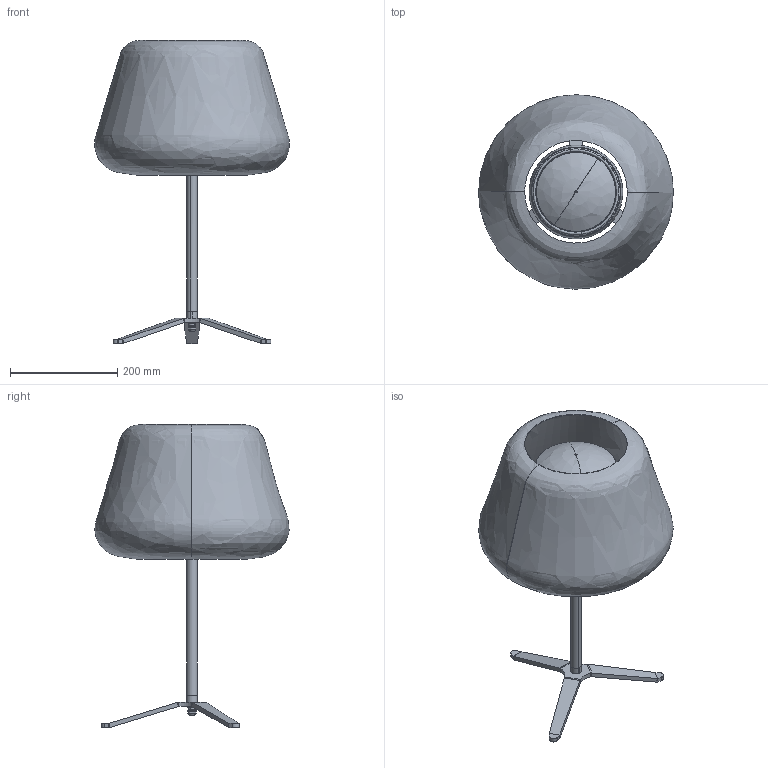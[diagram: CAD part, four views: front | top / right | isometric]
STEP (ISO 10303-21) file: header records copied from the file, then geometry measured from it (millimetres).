
FILE_DESCRIPTION(/* description */ (''),/* implementation_level */ '2;1');
FILE_NAME(/* name */ 'EC04744.035.0000',/* time_stamp */ '2024-10-22T09:35:33+02:00',/* author */ (''),/* organization */ (''),/* preprocessor_version */ 'ST-DEVELOPER v16.5',/* originating_system */ '',/* authorisation */ '');
FILE_SCHEMA (('AUTOMOTIVE_DESIGN'));
Length unit declared in the file: millimetre
Products named in the file (1): Document
Bounding box: 362.85 x 362.37 x 564.73 mm (x, y, z)
Volume: 866127.6 mm3; surface area: 1021701.9 mm2
Topology: 11 solids, 11 shells, 503 faces, 1090 edges, 621 vertices
Faces by surface type: bspline 403, plane 100
Entity records: 39656 total; most frequent: CARTESIAN_POINT 33322, ORIENTED_EDGE 2180, EDGE_CURVE 1090, VERTEX_POINT 621, EDGE_LOOP 543, ADVANCED_FACE 503, FACE_OUTER_BOUND 503, B_SPLINE_CURVE_WITH_KNOTS 475
